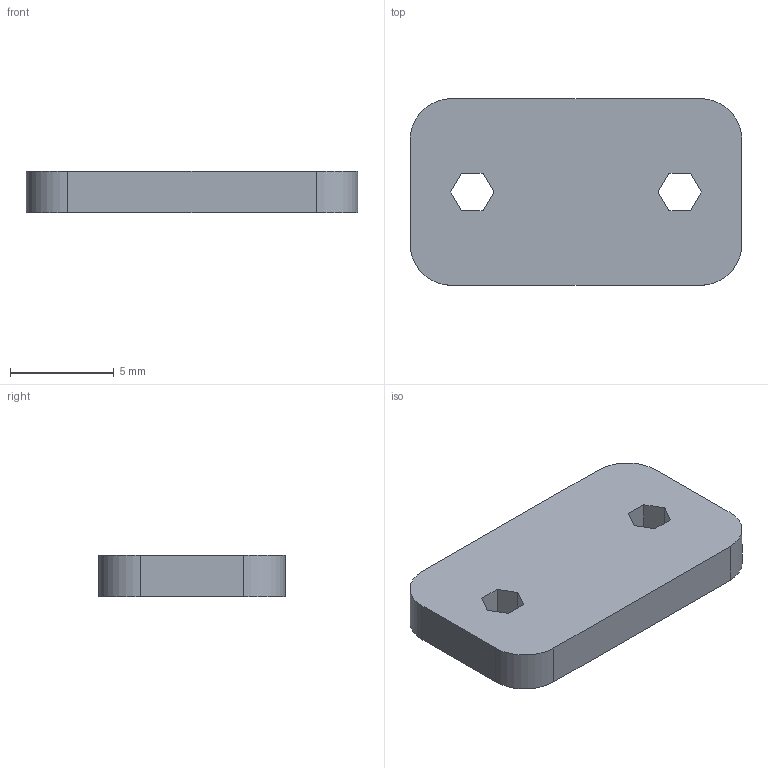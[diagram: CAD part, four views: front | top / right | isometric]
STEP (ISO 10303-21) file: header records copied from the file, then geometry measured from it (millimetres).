
FILE_DESCRIPTION(/* description */ (''),/* implementation_level */ '2;1');
FILE_NAME(/* name */ 'Pi_Camera_Stand_P2 .step',/* time_stamp */ '2020-06-16T17:13:17+09:00',/* author */ (''),/* organization */ (''),/* preprocessor_version */ 'ST-DEVELOPER v18.1',/* originating_system */ 'Autodesk Translation Framework v9.3.0.1241',/* authorisation */ '');
FILE_SCHEMA (('AUTOMOTIVE_DESIGN { 1 0 10303 214 3 1 1 }'));
Length unit declared in the file: millimetre
Products named in the file (1): Camera Stand p2
Bounding box: 16 x 9 x 2 mm (x, y, z)
Volume: 269.9 mm3; surface area: 388 mm2
Topology: 1 solids, 1 shells, 22 faces, 60 edges, 40 vertices
Faces by surface type: plane 18, cylinder 4
Entity records: 733 total; most frequent: CARTESIAN_POINT 123, ORIENTED_EDGE 120, DIRECTION 114, EDGE_CURVE 60, LINE 52, VECTOR 52, VERTEX_POINT 40, AXIS2_PLACEMENT_3D 31
